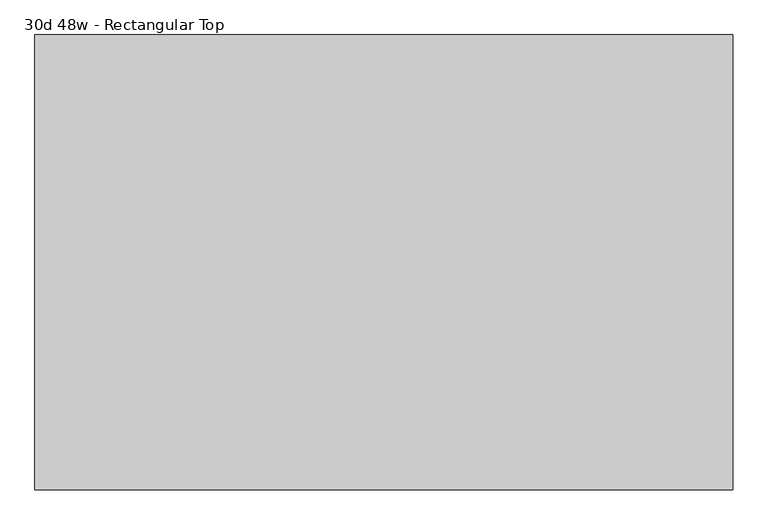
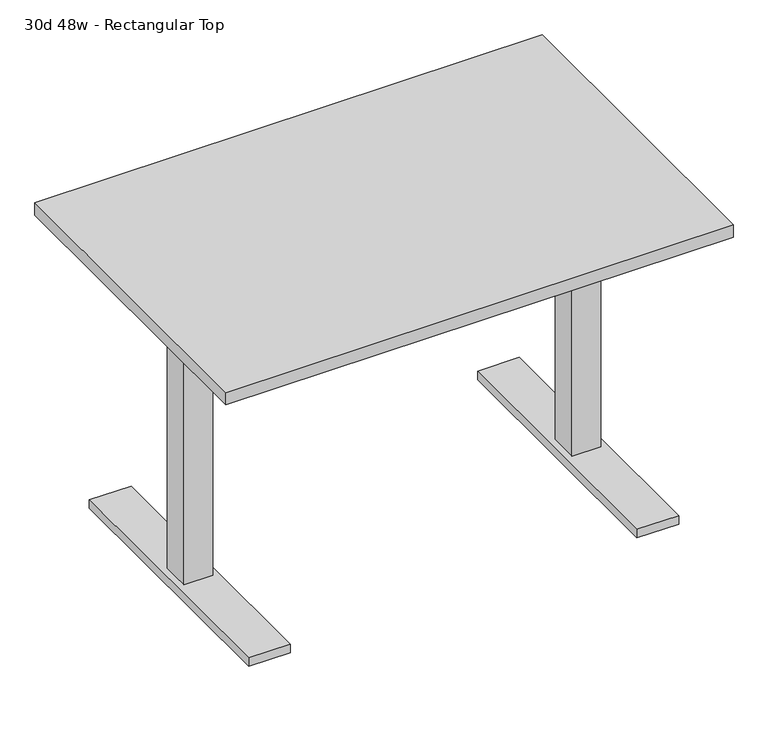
"""IFC4 building model written with IfcOpenShell, lengths in millimetres: furniture geometry, Haworth_Masters_Table-Rectangular : 30d 48w - Rectangular Top."""

from ifc_helpers import new_model, si_unit, frame, origin, origin_with_axes, place, context, project, spatial, polyline, outline, extrude, source, transform, mapped, element, save


def furniture_30d_48w_rectangular_top_54eb0fb1(model_context):
    return source(origin(), model_context, "Body", "SweptSolid", [
        extrude(outline(polyline([(-495.3, 317.5), (-398.7601562, 317.5), (-398.7601562, -317.5), (-495.3, -317.5), (-495.3, 317.5)])), origin_with_axes(), (0.0, 0.0, 1.0), 20.6375),
        extrude(outline(polyline([(49.3599854, 648.1304493), (-49.3599854, 648.1304493), (-215.9, 700.0875), (-215.9, 706.4375), (215.9, 706.4375), (215.9, 700.0875), (49.3599854, 648.1304493)])), frame((-495.3, 0.0, 0.0), z_axis=(1.0, 0.0, 0.0), x_axis=(0.0, 1.0, 0.0)), (0.0, 0.0, 1.0), 25.4),
        extrude(outline(polyline([(-469.9, 29.21), (-417.8597656, 29.21), (-417.8597656, -29.21), (-469.9, -29.21), (-469.9, 29.21)])), frame((0.0, 0.0, 642.9375), z_axis=(0.0, 0.0, 1.0), x_axis=(1.0, 0.0, 0.0)), (0.0, 0.0, 1.0), 63.5),
        extrude(outline(polyline([(-480.0699219, 33.02), (-413.9902344, 33.02), (-413.9902344, -33.02), (-480.0699219, -33.02), (-480.0699219, 33.02)])), frame((0.0, 0.0, 20.6375), z_axis=(0.0, 0.0, 1.0), x_axis=(1.0, 0.0, 0.0)), (0.0, 0.0, 1.0), 622.3),
        extrude(outline(polyline([(495.3, 317.5), (495.3, -317.5), (398.7601563, -317.5), (398.7601563, 317.5), (495.3, 317.5)])), origin_with_axes(), (0.0, 0.0, 1.0), 20.6375),
        extrude(outline(polyline([(49.3599854, 648.1304493), (-49.3599854, 648.1304493), (-215.9, 700.0875), (-215.9, 706.4375), (215.9, 706.4375), (215.9, 700.0875), (49.3599854, 648.1304493)])), frame((469.9, 0.0, 0.0), z_axis=(1.0, 0.0, 0.0), x_axis=(0.0, 1.0, 0.0)), (0.0, 0.0, 1.0), 25.4),
        extrude(outline(polyline([(469.9, 29.21), (469.9, -29.21), (417.8597656, -29.21), (417.8597656, 29.21), (469.9, 29.21)])), frame((0.0, 0.0, 642.9375), z_axis=(0.0, 0.0, 1.0), x_axis=(1.0, 0.0, 0.0)), (0.0, 0.0, 1.0), 63.5),
        extrude(outline(polyline([(480.0699219, 33.02), (480.0699219, -33.02), (413.9902344, -33.02), (413.9902344, 33.02), (480.0699219, 33.02)])), frame((0.0, 0.0, 20.6375), z_axis=(0.0, 0.0, 1.0), x_axis=(1.0, 0.0, 0.0)), (0.0, 0.0, 1.0), 622.3),
        extrude(outline(polyline([(584.2, 381.0), (584.2, -381.0), (-584.2, -381.0), (-584.2, 381.0), (584.2, 381.0)])), frame((0.0, 0.0, 706.4375), z_axis=(0.0, 0.0, 1.0), x_axis=(1.0, 0.0, 0.0)), (0.0, 0.0, 1.0), 30.1625),
    ])


if __name__ == "__main__":
    model = new_model("IFC4")
    model_context = context("Model", 3, world=origin())
    ifc_project = project(units=[si_unit("LENGTHUNIT", "METRE", prefix="MILLI")], contexts=[model_context])
    site = spatial("IfcSite", under=ifc_project)
    building = spatial("IfcBuilding", under=site)
    placement = place(None, origin())
    furniture_30d_48w_rectangular_top_shape = furniture_30d_48w_rectangular_top_54eb0fb1(model_context)
    element("IfcFurniture", 1, ObjectType="Haworth_Masters_Table-Rectangular : 30d 48w - Rectangular Top", at=placement, inside=building, context=model_context, shape_type="MappedRepresentation", body=[
        mapped(furniture_30d_48w_rectangular_top_shape, transform((0.0, 0.0, 0.0), x_axis=(1.0, 0.0, 0.0), y_axis=(0.0, 1.0, 0.0), z_axis=(0.0, 0.0, 1.0))),
    ])
    save(model, "model.ifc")
